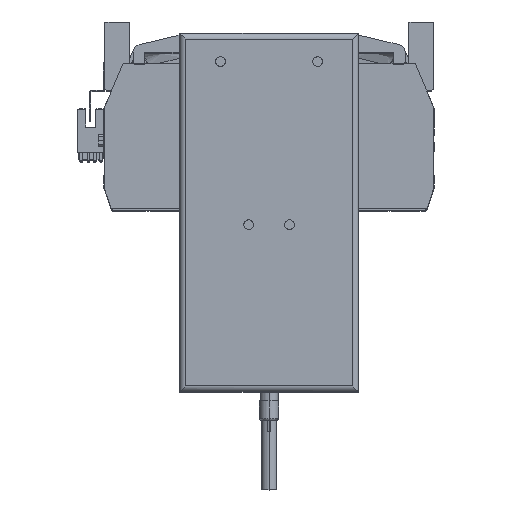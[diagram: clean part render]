
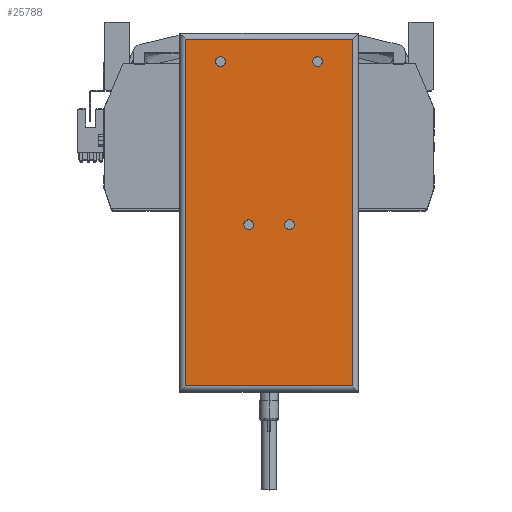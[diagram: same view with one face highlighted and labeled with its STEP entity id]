
A CAD part, top view. The second image highlights one B-rep face of the part: STEP entity #25788.
In plain terms, the highlighted planar face has unit normal (0, 0, 1) as drawn and (0, 0, -1) by its records, which use the part's own axes.
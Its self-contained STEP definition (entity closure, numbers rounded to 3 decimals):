
#401 = AXIS2_PLACEMENT_3D ( 'NONE', #46425, #19804, #23749 ) ;
#445 = CIRCLE ( 'NONE', #42278, 2.5 ) ;
#635 = AXIS2_PLACEMENT_3D ( 'NONE', #18467, #18301, #40592 ) ;
#1080 = DIRECTION ( 'NONE',  ( 0., -1., 0. ) ) ;
#1304 = EDGE_LOOP ( 'NONE', ( #8588, #4086, #36896, #30778 ) ) ;
#2838 = EDGE_LOOP ( 'NONE', ( #34597, #19034 ) ) ;
#3461 = EDGE_LOOP ( 'NONE', ( #23126, #15930 ) ) ;
#3863 = DIRECTION ( 'NONE',  ( 0., 0., -1. ) ) ;
#3944 = CIRCLE ( 'NONE', #7074, 2.5 ) ;
#4086 = ORIENTED_EDGE ( 'NONE', *, *, #27221, .T. ) ;
#5130 = VERTEX_POINT ( 'NONE', #20583 ) ;
#5512 = EDGE_CURVE ( 'NONE', #37720, #23638, #36923, .T. ) ;
#5705 = EDGE_LOOP ( 'NONE', ( #42328, #40829 ) ) ;
#6024 = CARTESIAN_POINT ( 'NONE',  ( -10.5, -6.25, 0. ) ) ;
#6743 = DIRECTION ( 'NONE',  ( -1., 0., 0. ) ) ;
#6815 = FACE_BOUND ( 'NONE', #2838, .T. ) ;
#6915 = DIRECTION ( 'NONE',  ( 1., 0., 0. ) ) ;
#7074 = AXIS2_PLACEMENT_3D ( 'NONE', #26463, #3863, #45337 ) ;
#7852 = CARTESIAN_POINT ( 'NONE',  ( 43., 89.25, 0. ) ) ;
#8155 = DIRECTION ( 'NONE',  ( -1., 0., 0. ) ) ;
#8588 = ORIENTED_EDGE ( 'NONE', *, *, #5512, .T. ) ;
#8756 = CARTESIAN_POINT ( 'NONE',  ( -22.5, 77.75, 0. ) ) ;
#10247 = DIRECTION ( 'NONE',  ( 0., 1., 0. ) ) ;
#10396 = CARTESIAN_POINT ( 'NONE',  ( 27.5, 77.75, 0. ) ) ;
#10733 = DIRECTION ( 'NONE',  ( -1., 0., 0. ) ) ;
#12845 = ORIENTED_EDGE ( 'NONE', *, *, #34342, .F. ) ;
#13373 = AXIS2_PLACEMENT_3D ( 'NONE', #44414, #44749, #6743 ) ;
#14431 = VECTOR ( 'NONE', #8155, 1000. ) ;
#15293 = VERTEX_POINT ( 'NONE', #8756 ) ;
#15930 = ORIENTED_EDGE ( 'NONE', *, *, #25801, .F. ) ;
#16912 = DIRECTION ( 'NONE',  ( 0., 0., -1. ) ) ;
#17322 = DIRECTION ( 'NONE',  ( -1., 0., 0. ) ) ;
#17340 = CARTESIAN_POINT ( 'NONE',  ( -43., -92.25, 0. ) ) ;
#17421 = VECTOR ( 'NONE', #1080, 1000. ) ;
#18097 = EDGE_CURVE ( 'NONE', #37928, #15293, #31462, .T. ) ;
#18100 = DIRECTION ( 'NONE',  ( 0., 0., -1. ) ) ;
#18296 = EDGE_CURVE ( 'NONE', #44450, #37720, #45062, .T. ) ;
#18301 = DIRECTION ( 'NONE',  ( 0., 0., -1. ) ) ;
#18467 = CARTESIAN_POINT ( 'NONE',  ( -25., 77.75, 0. ) ) ;
#19034 = ORIENTED_EDGE ( 'NONE', *, *, #27928, .F. ) ;
#19143 = LINE ( 'NONE', #42484, #14431 ) ;
#19623 = VECTOR ( 'NONE', #10247, 1000. ) ;
#19804 = DIRECTION ( 'NONE',  ( 0., 0., -1. ) ) ;
#19887 = CARTESIAN_POINT ( 'NONE',  ( -27.5, 77.75, 0. ) ) ;
#19946 = AXIS2_PLACEMENT_3D ( 'NONE', #39651, #36358, #17322 ) ;
#20261 = CARTESIAN_POINT ( 'NONE',  ( 43., -89.25, 0. ) ) ;
#20583 = CARTESIAN_POINT ( 'NONE',  ( 13., -6.25, 0. ) ) ;
#21258 = EDGE_LOOP ( 'NONE', ( #12845, #34257 ) ) ;
#21356 = VERTEX_POINT ( 'NONE', #37794 ) ;
#21891 = EDGE_CURVE ( 'NONE', #25769, #40137, #3944, .T. ) ;
#22772 = FACE_OUTER_BOUND ( 'NONE', #1304, .T. ) ;
#23126 = ORIENTED_EDGE ( 'NONE', *, *, #38800, .F. ) ;
#23638 = VERTEX_POINT ( 'NONE', #20261 ) ;
#23749 = DIRECTION ( 'NONE',  ( -1., 0., 0. ) ) ;
#23942 = FACE_BOUND ( 'NONE', #3461, .T. ) ;
#25527 = DIRECTION ( 'NONE',  ( -1., 0., 0. ) ) ;
#25769 = VERTEX_POINT ( 'NONE', #10396 ) ;
#25788 = ADVANCED_FACE ( 'NONE', ( #22772, #23942, #28090, #6815, #35819 ), #32692, .F. ) ;
#25801 = EDGE_CURVE ( 'NONE', #21356, #27051, #44652, .T. ) ;
#26463 = CARTESIAN_POINT ( 'NONE',  ( 25., 77.75, 0. ) ) ;
#27051 = VERTEX_POINT ( 'NONE', #28325 ) ;
#27221 = EDGE_CURVE ( 'NONE', #23638, #34131, #19143, .T. ) ;
#27843 = DIRECTION ( 'NONE',  ( 1., 0., 0. ) ) ;
#27928 = EDGE_CURVE ( 'NONE', #15293, #37928, #45714, .T. ) ;
#28090 = FACE_BOUND ( 'NONE', #21258, .T. ) ;
#28325 = CARTESIAN_POINT ( 'NONE',  ( -13., -6.25, 0. ) ) ;
#28527 = CIRCLE ( 'NONE', #13373, 2.5 ) ;
#28883 = CARTESIAN_POINT ( 'NONE',  ( -10.5, -6.25, 0. ) ) ;
#30778 = ORIENTED_EDGE ( 'NONE', *, *, #18296, .T. ) ;
#30928 = AXIS2_PLACEMENT_3D ( 'NONE', #44580, #40440, #6915 ) ;
#31239 = CARTESIAN_POINT ( 'NONE',  ( -43., 89.25, 0. ) ) ;
#31462 = CIRCLE ( 'NONE', #19946, 2.5 ) ;
#31533 = CARTESIAN_POINT ( 'NONE',  ( -43., -89.25, 0. ) ) ;
#32436 = DIRECTION ( 'NONE',  ( -1., 0., 0. ) ) ;
#32692 = PLANE ( 'NONE',  #30928 ) ;
#32939 = CARTESIAN_POINT ( 'NONE',  ( 22.5, 77.75, 0. ) ) ;
#33201 = CIRCLE ( 'NONE', #401, 2.5 ) ;
#33553 = AXIS2_PLACEMENT_3D ( 'NONE', #48168, #18100, #25527 ) ;
#34131 = VERTEX_POINT ( 'NONE', #31533 ) ;
#34257 = ORIENTED_EDGE ( 'NONE', *, *, #41770, .F. ) ;
#34342 = EDGE_CURVE ( 'NONE', #39478, #5130, #28527, .T. ) ;
#34398 = CARTESIAN_POINT ( 'NONE',  ( 8., -6.25, 0. ) ) ;
#34473 = AXIS2_PLACEMENT_3D ( 'NONE', #28883, #48039, #10733 ) ;
#34597 = ORIENTED_EDGE ( 'NONE', *, *, #18097, .F. ) ;
#35457 = EDGE_CURVE ( 'NONE', #34131, #44450, #39733, .T. ) ;
#35478 = CARTESIAN_POINT ( 'NONE',  ( -46., 89.25, 0. ) ) ;
#35702 = EDGE_CURVE ( 'NONE', #40137, #25769, #33201, .T. ) ;
#35819 = FACE_BOUND ( 'NONE', #5705, .T. ) ;
#36358 = DIRECTION ( 'NONE',  ( 0., 0., -1. ) ) ;
#36756 = VECTOR ( 'NONE', #27843, 1000. ) ;
#36896 = ORIENTED_EDGE ( 'NONE', *, *, #35457, .T. ) ;
#36923 = LINE ( 'NONE', #38723, #17421 ) ;
#37720 = VERTEX_POINT ( 'NONE', #7852 ) ;
#37794 = CARTESIAN_POINT ( 'NONE',  ( -8., -6.25, 0. ) ) ;
#37928 = VERTEX_POINT ( 'NONE', #19887 ) ;
#38723 = CARTESIAN_POINT ( 'NONE',  ( 43., -92.25, 0. ) ) ;
#38800 = EDGE_CURVE ( 'NONE', #27051, #21356, #445, .T. ) ;
#39478 = VERTEX_POINT ( 'NONE', #34398 ) ;
#39651 = CARTESIAN_POINT ( 'NONE',  ( -25., 77.75, 0. ) ) ;
#39733 = LINE ( 'NONE', #17340, #19623 ) ;
#40137 = VERTEX_POINT ( 'NONE', #32939 ) ;
#40440 = DIRECTION ( 'NONE',  ( 0., 0., 1. ) ) ;
#40592 = DIRECTION ( 'NONE',  ( -1., 0., 0. ) ) ;
#40829 = ORIENTED_EDGE ( 'NONE', *, *, #21891, .F. ) ;
#41770 = EDGE_CURVE ( 'NONE', #5130, #39478, #47747, .T. ) ;
#42278 = AXIS2_PLACEMENT_3D ( 'NONE', #6024, #16912, #32436 ) ;
#42328 = ORIENTED_EDGE ( 'NONE', *, *, #35702, .F. ) ;
#42484 = CARTESIAN_POINT ( 'NONE',  ( -46., -89.25, 0. ) ) ;
#44414 = CARTESIAN_POINT ( 'NONE',  ( 10.5, -6.25, 0. ) ) ;
#44450 = VERTEX_POINT ( 'NONE', #31239 ) ;
#44580 = CARTESIAN_POINT ( 'NONE',  ( -46., -92.25, 0. ) ) ;
#44652 = CIRCLE ( 'NONE', #34473, 2.5 ) ;
#44749 = DIRECTION ( 'NONE',  ( 0., 0., -1. ) ) ;
#45062 = LINE ( 'NONE', #35478, #36756 ) ;
#45337 = DIRECTION ( 'NONE',  ( -1., 0., 0. ) ) ;
#45714 = CIRCLE ( 'NONE', #635, 2.5 ) ;
#46425 = CARTESIAN_POINT ( 'NONE',  ( 25., 77.75, 0. ) ) ;
#47747 = CIRCLE ( 'NONE', #33553, 2.5 ) ;
#48039 = DIRECTION ( 'NONE',  ( 0., 0., -1. ) ) ;
#48168 = CARTESIAN_POINT ( 'NONE',  ( 10.5, -6.25, 0. ) ) ;
